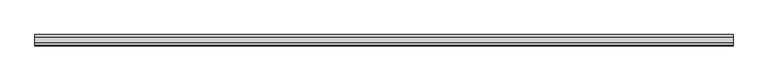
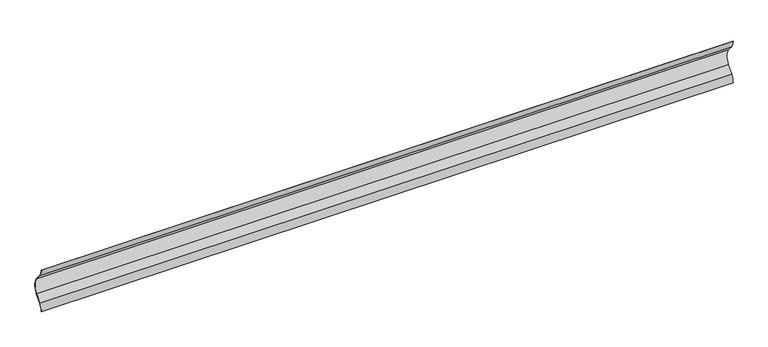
"""IFC4 building model written with IfcOpenShell, lengths in millimetres: plate geometry, Ritmica Horizontal 145 : Ritmica Horizontal 145."""

from ifc_helpers import new_model, si_unit, point, frame, frame_2d, origin, place, context, project, spatial, polyline, circle_curve, trimmed, segment, composite_curve, outline, extrude, source, transform, mapped, element, save


def plate_d554c0d4(model_context):
    return source(origin(), model_context, "Body", "SweptSolid", [
        extrude(outline(composite_curve([segment(polyline([(9.6118612, 121.7925982), (28.3076524, 99.3683726)]), True, "CONTINUOUS"), segment(trimmed(circle_curve(frame_2d((-7.0369007, 72.9267773)), 44.1406321), [point((28.3076524, 99.3683726))], [point((28.3268915, 46.5109184))], False, "CARTESIAN"), True, "CONTINUOUS"), segment(polyline([(28.3268915, 46.5109184), (9.6474291, 23.7707747)]), True, "CONTINUOUS"), segment(trimmed(circle_curve(frame_2d((38.1842875, 0.0138791)), 37.1314203), [point((9.6474291, 23.7707747))], [point((1.0528698, 0.0))], True, "CARTESIAN"), True, "CONTINUOUS"), segment(polyline([(1.0528698, 0.0), (0.0528697, 0.0)]), True, "CONTINUOUS"), segment(trimmed(circle_curve(frame_2d((38.1842875, 0.0138791)), 38.1314203), [point((0.0528697, 0.0))], [point((8.8788924, 24.4105804))], False, "CARTESIAN"), True, "CONTINUOUS"), segment(polyline([(8.8788924, 24.4105804), (27.5414007, 47.1303588)]), True, "CONTINUOUS"), segment(trimmed(circle_curve(frame_2d((-7.0369007, 72.9267773)), 43.1406321), [point((27.5414007, 47.1303588))], [point((27.5226128, 98.7483605))], True, "CARTESIAN"), True, "CONTINUOUS"), segment(polyline([(27.5226128, 98.7483605), (8.8437904, 121.1522332)]), True, "CONTINUOUS"), segment(trimmed(circle_curve(frame_2d((38.1314179, 145.5702612)), 38.1314203), [point((8.8437904, 121.1522332))], [point((0.0, 145.5567461))], False, "CARTESIAN"), True, "CONTINUOUS"), segment(polyline([(0.0, 145.5567461), (1.0000001, 145.5567461)]), True, "CONTINUOUS"), segment(trimmed(circle_curve(frame_2d((38.1314179, 145.5702612)), 37.1314203), [point((1.0000001, 145.5567461))], [point((9.6118612, 121.7925982))], True, "CARTESIAN"), True, "CONTINUOUS")], self_intersect=False)), frame((-1149.0935453, 0.0, 0.0), z_axis=(1.0, 0.0, 0.0), x_axis=(0.0, 1.0, 0.0)), (0.0, 0.0, 1.0), 2298.1870906),
    ])


if __name__ == "__main__":
    model = new_model("IFC4")
    model_context = context("Model", 3, world=origin())
    ifc_project = project(units=[si_unit("LENGTHUNIT", "METRE", prefix="MILLI")], contexts=[model_context])
    site = spatial("IfcSite", under=ifc_project)
    building = spatial("IfcBuilding", under=site)
    placement = place(None, origin())
    plate_shape = plate_d554c0d4(model_context)
    element("IfcPlate", 1, ObjectType="Ritmica Horizontal 145 : Ritmica Horizontal 145", at=placement, inside=building, context=model_context, shape_type="MappedRepresentation", body=[
        mapped(plate_shape, transform((0.0, 0.0, 0.0), x_axis=(1.0, 0.0, 0.0), y_axis=(0.0, 1.0, 0.0), z_axis=(0.0, 0.0, 1.0))),
    ])
    save(model, "model.ifc")
